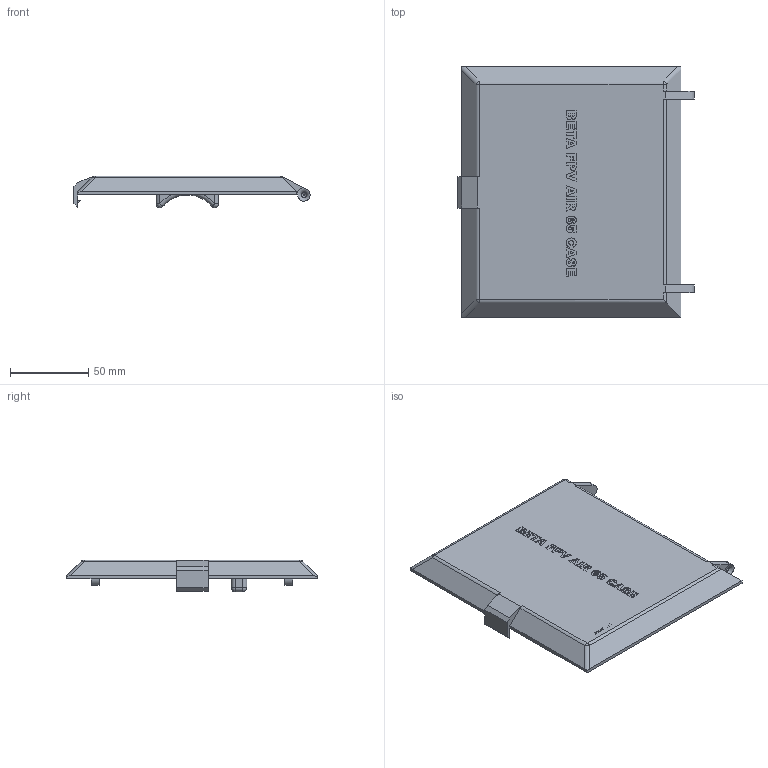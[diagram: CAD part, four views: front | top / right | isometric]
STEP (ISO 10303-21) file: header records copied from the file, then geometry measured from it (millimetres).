
FILE_DESCRIPTION(/* description */ (''),/* implementation_level */ '2;1');
FILE_NAME(/* name */ 'Air65Lid.step',/* time_stamp */ '2025-11-17T19:33:12+01:00',/* author */ (''),/* organization */ (''),/* preprocessor_version */ 'ST-DEVELOPER v20.1',/* originating_system */ 'Autodesk Translation Framework v14.17.0.0',/* authorisation */ '');
FILE_SCHEMA (('AUTOMOTIVE_DESIGN { 1 0 10303 214 3 1 1 }'));
Length unit declared in the file: millimetre
Products named in the file (1): air65box
Bounding box: 150.99 x 160 x 20.21 mm (x, y, z)
Volume: 48498.1 mm3; surface area: 57766.6 mm2
Topology: 1 solids, 2 shells, 591 faces, 1580 edges, 1031 vertices
Faces by surface type: plane 291, bspline 239, cylinder 37, torus 11, sphere 11, cone 2
Entity records: 20545 total; most frequent: CARTESIAN_POINT 7338, ORIENTED_EDGE 3160, DIRECTION 1911, EDGE_CURVE 1580, VERTEX_POINT 1031, LINE 995, VECTOR 995, EDGE_LOOP 633
